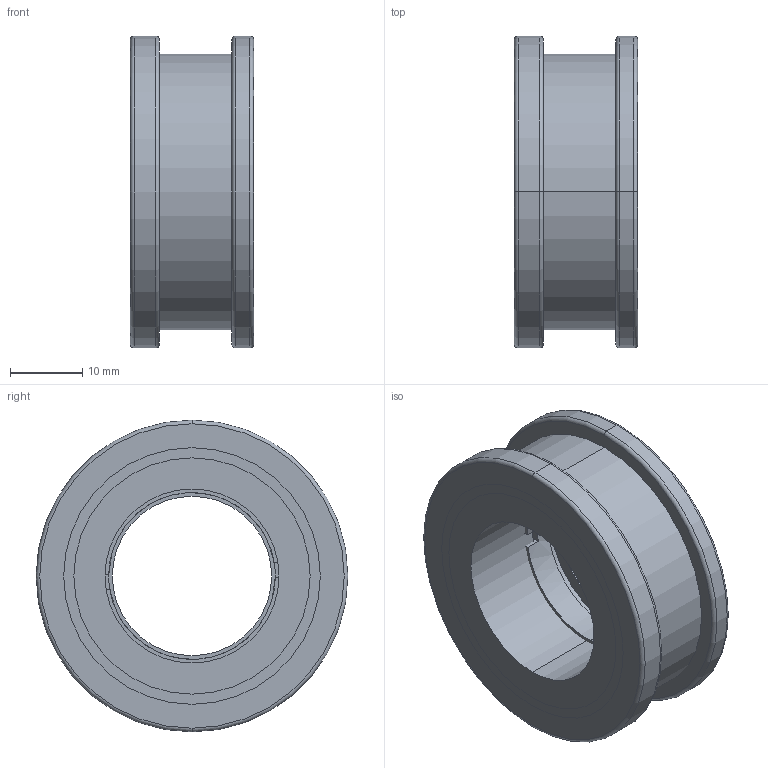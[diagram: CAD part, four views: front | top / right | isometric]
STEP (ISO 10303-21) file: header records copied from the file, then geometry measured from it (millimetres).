
FILE_DESCRIPTION (( 'STEP AP203' ), '1' );
FILE_NAME ('7MMPH1254Æ«¹â¾µÍ².STEP', '2019-12-05T06:04:53', ( '' ), ( '' ), 'SwSTEP 2.0', 'SolidWorks 2018', '' );
FILE_SCHEMA (( 'CONFIG_CONTROL_DESIGN' ));
Length unit declared in the file: millimetre
Products named in the file (1): 7MMPH1254ぇ嫖噩芠
Bounding box: 17 x 43 x 43 mm (x, y, z)
Volume: 14799.3 mm3; surface area: 8923.7 mm2
Topology: 3 solids, 3 shells, 59 faces, 128 edges, 80 vertices
Faces by surface type: cylinder 24, plane 19, torus 8, cone 8
Entity records: 1719 total; most frequent: DIRECTION 328, CARTESIAN_POINT 268, ORIENTED_EDGE 256, AXIS2_PLACEMENT_3D 140, EDGE_CURVE 128, VERTEX_POINT 80, CIRCLE 80, EDGE_LOOP 70
